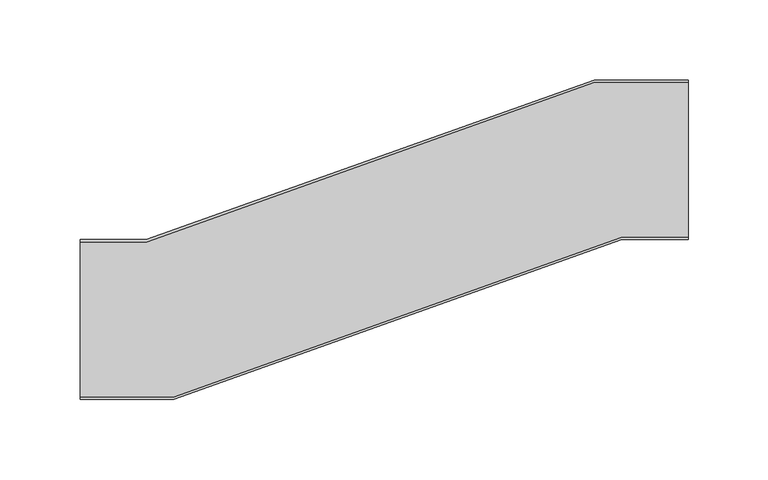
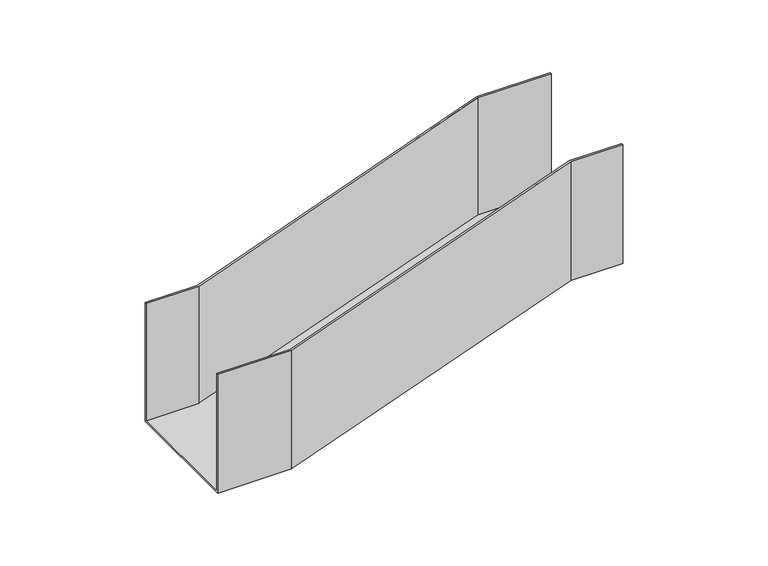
"""IFC4 building model written with IfcOpenShell, lengths in millimetres: cable carrier fitting geometry, BAKS_Bypass_horizontal_left_OPZL : OPZLPH100."""

import ifcopenshell
import ifcopenshell.guid

model = None  # the IFC model being written
_history = None  # IfcOwnerHistory: only IFC2X3 demands one
_inside = {}  # id of a spatial element -> (the spatial element, [elements in it])
_under = {}  # id of a project, library or spatial element -> (it, [spatial elements below it])
_declared = {}  # id of a project -> (the project, [libraries it declares])
_typed = {}  # id of a type object -> (the type object, [elements of that type])
_made_of = {}  # id of a material, layer set ... -> (it, [elements and type objects made of it])


def new_model(schema):
    """Start an empty IFC model of exactly this schema.

    Asked for "IFC4X3", IfcOpenShell would pick the latest addendum, in which some entities
    have other attributes; the version numbers below select the first issue.
    IFC2X3 requires an IfcOwnerHistory on every rooted entity: one is made here for all.
    """
    global model, _history
    if schema == "IFC4X3":
        model = ifcopenshell.file(schema_version=(4, 3, 0, 0))
    else:
        model = ifcopenshell.file(schema=schema)
    _inside.clear()
    _under.clear()
    _declared.clear()
    _typed.clear()
    _made_of.clear()
    _history = None
    if model.schema == "IFC2X3":
        org = make("IfcOrganization", Name="unknown")
        user = make(
            "IfcPersonAndOrganization",
            ThePerson=make("IfcPerson", FamilyName="unknown"),
            TheOrganization=org,
        )
        app = make(
            "IfcApplication",
            ApplicationDeveloper=org,
            Version="unknown",
            ApplicationFullName="unknown",
            ApplicationIdentifier="unknown",
        )
        _history = make(
            "IfcOwnerHistory",
            OwningUser=user,
            OwningApplication=app,
            ChangeAction="ADDED",
            CreationDate=0,
        )
    return model


def make(cls, **values):
    """One entity of the class cls with the attributes given. An attribute that is None is left unset."""
    return model.create_entity(
        cls, **{name: value for name, value in values.items() if value is not None}
    )


def rooted(cls, **values):
    """An entity with a GlobalId (a new one), such as an element, a storey or a relation."""
    return make(cls, GlobalId=ifcopenshell.guid.new(), OwnerHistory=_history, **values)


def si_unit(unit_type, name, prefix=None):
    """IfcSIUnit, for example si_unit("LENGTHUNIT", "METRE", prefix="MILLI")."""
    return make("IfcSIUnit", UnitType=unit_type, Prefix=prefix, Name=name)


def assignment(units):
    """IfcUnitAssignment: the units of a project."""
    return None if units is None else make("IfcUnitAssignment", Units=units)


def point(xyz):
    """IfcCartesianPoint."""
    return None if xyz is None else make("IfcCartesianPoint", Coordinates=xyz)


def direction(xyz):
    """IfcDirection."""
    return None if xyz is None else make("IfcDirection", DirectionRatios=xyz)


def frame(location, z_axis=None, x_axis=None):
    """IfcAxis2Placement3D, a coordinate frame: its origin and axes. An axis left out is left unset."""
    return make(
        "IfcAxis2Placement3D",
        Location=point(location),
        Axis=direction(z_axis),
        RefDirection=direction(x_axis),
    )


def origin():
    """The frame at (0, 0, 0) with its axes left unset."""
    return frame((0.0, 0.0, 0.0))


def place(relative_to, where):
    """IfcLocalPlacement: puts the frame where relative to a parent placement (None: the world)."""
    return make(
        "IfcLocalPlacement", PlacementRelTo=relative_to, RelativePlacement=where
    )


def context(
    kind, dimensions, precision=None, world=None, true_north=None, identifier=None
):
    """IfcGeometricRepresentationContext, for example the 3D "Model" context."""
    return make(
        "IfcGeometricRepresentationContext",
        ContextIdentifier=identifier,
        ContextType=kind,
        CoordinateSpaceDimension=dimensions,
        Precision=precision,
        WorldCoordinateSystem=world,
        TrueNorth=true_north,
    )


def project(units=None, contexts=None):
    """IfcProject with its units and contexts."""
    return rooted(
        "IfcProject",
        Name="project",
        RepresentationContexts=contexts,
        UnitsInContext=assignment(units),
    )


def spatial(cls, under=None, at=None, **own):
    """A site, building, storey or space (cls), placed at a placement, below another one or the project."""
    s = rooted(cls, ObjectPlacement=at, **own)
    if under is not None:
        _under.setdefault(under.id(), (under, []))[1].append(s)
    return s


def faces_of(points, faces, orient=None, outer=None):
    """IfcFace entities. A face is a list of loops; a loop is a list of indices into points, from 0.

    orient and outer hold one flag for each loop. By default every Orientation is true, the
    first loop of a face is its IfcFaceOuterBound and the others are IfcFaceBound.
    """
    made = []
    for i, loops in enumerate(faces):
        bounds = []
        for j, loop in enumerate(loops):
            is_outer = j == 0 if outer is None else outer[i][j]
            bounds.append(
                make(
                    "IfcFaceOuterBound" if is_outer else "IfcFaceBound",
                    Bound=make("IfcPolyLoop", Polygon=[points[k] for k in loop]),
                    Orientation=True if orient is None else orient[i][j],
                )
            )
        made.append(make("IfcFace", Bounds=bounds))
    return made


def faceted_brep(points, faces, orient=None, outer=None, voids=None):
    """IfcFacetedBrep: a solid bounded by flat faces; with voids (closed shells), ...WithVoids."""
    shared = [point(p) for p in points]
    hull = make("IfcClosedShell", CfsFaces=faces_of(shared, faces, orient, outer))
    if voids is None:
        return make("IfcFacetedBrep", Outer=hull)
    return make(
        "IfcFacetedBrepWithVoids",
        Outer=hull,
        Voids=[
            make(cls, CfsFaces=faces_of(shared, fs, o, b)) for cls, fs, o, b in voids
        ],
    )


def shape(context_of_items, identifier, shape_type, items):
    """IfcShapeRepresentation: the items that make up one representation, for example the "Body"."""
    return make(
        "IfcShapeRepresentation",
        ContextOfItems=context_of_items,
        RepresentationIdentifier=identifier,
        RepresentationType=shape_type,
        Items=items,
    )


def source(mapping_origin, context_of_items, identifier, shape_type, items):
    """IfcRepresentationMap: a shape defined once, which mapped items show again and again."""
    return make(
        "IfcRepresentationMap",
        MappingOrigin=mapping_origin,
        MappedRepresentation=shape(context_of_items, identifier, shape_type, items),
    )


def transform(
    local_origin,
    x_axis=None,
    y_axis=None,
    z_axis=None,
    scale=None,
    scale2=None,
    scale3=None,
    uniform=True,
):
    """IfcCartesianTransformationOperator3D, or its non-uniform kind. x_axis, y_axis, z_axis: its Axis1, 2, 3."""
    if uniform:
        return make(
            "IfcCartesianTransformationOperator3D",
            Axis1=direction(x_axis),
            Axis2=direction(y_axis),
            LocalOrigin=point(local_origin),
            Scale=scale,
            Axis3=direction(z_axis),
        )
    return make(
        "IfcCartesianTransformationOperator3DnonUniform",
        Axis1=direction(x_axis),
        Axis2=direction(y_axis),
        LocalOrigin=point(local_origin),
        Scale=scale,
        Axis3=direction(z_axis),
        Scale2=scale2,
        Scale3=scale3,
    )


def mapped(mapping_source, mapping_target):
    """IfcMappedItem: shows the shape of a source again, moved by a transform."""
    return make(
        "IfcMappedItem", MappingSource=mapping_source, MappingTarget=mapping_target
    )


def made_of(thing, what):
    """Note that an element or type object is made of a material, layer set ...; save() writes the relation."""
    if what is not None:
        _made_of.setdefault(what.id(), (what, []))[1].append(thing)
    return thing


def element(
    cls,
    number,
    at=None,
    inside=None,
    cuts=None,
    type_object=None,
    material=None,
    context=None,
    identifier="Body",
    shape_type=None,
    held_by="IfcProductDefinitionShape",
    body=None,
    shapes=None,
    **own,
):
    """One element of the class cls, such as IfcWall. Its Tag is "e" and its number.

    at: its placement. inside: the storey or other place that contains it. cuts: it is an
    opening in that element (IfcRelVoidsElement). A single representation is given by context,
    identifier, shape_type and body (its items); several are given by shapes. held_by: the class
    of the entity that holds the representations. save() writes the other relations.
    """
    e = rooted(cls, Tag="e%d" % number, ObjectPlacement=at, **own)
    if body is not None:
        shapes = [shape(context, identifier, shape_type, body)]
    if shapes is not None:
        e.Representation = make(held_by, Representations=shapes)
    if inside is not None:
        _inside.setdefault(inside.id(), (inside, []))[1].append(e)
    if cuts is not None:
        rooted(
            "IfcRelVoidsElement", RelatingBuildingElement=cuts, RelatedOpeningElement=e
        )
    if type_object is not None:
        _typed.setdefault(type_object.id(), (type_object, []))[1].append(e)
    return made_of(e, material)


def aggregate(whole, parts):
    """IfcRelAggregates: a whole, such as a stair, and the parts it consists of."""
    return rooted("IfcRelAggregates", RelatingObject=whole, RelatedObjects=parts)


def save(model, path):
    """Write the relations noted so far, then the file.

    IfcRelAggregates (storeys below a building ...), IfcRelContainedInSpatialStructure (elements
    in a storey), IfcRelDefinesByType, IfcRelAssociatesMaterial and IfcRelDeclares: one each for
    every whole, place, type object, material and project.
    """
    for whole, parts in _under.values():
        aggregate(whole, parts)
    for where, things in _inside.values():
        rooted(
            "IfcRelContainedInSpatialStructure",
            RelatedElements=things,
            RelatingStructure=where,
        )
    for kind, things in _typed.values():
        rooted("IfcRelDefinesByType", RelatedObjects=things, RelatingType=kind)
    for what, things in _made_of.values():
        rooted("IfcRelAssociatesMaterial", RelatedObjects=things, RelatingMaterial=what)
    for by, libraries in _declared.values():
        rooted("IfcRelDeclares", RelatingContext=by, RelatedDefinitions=libraries)
    model.write(path)


def cable_carrier_fitting_1d79b922(model_context):
    return source(origin(), model_context, "Body", "Brep", [
        faceted_brep([(-190.0, -1.5, 1.5), (-190.0, -1.5, 100.0), (-190.0, 0.0, 100.0), (-190.0, 0.0, 0.0), (-190.0, -100.0, 0.0), (-190.0, -100.0, 100.0), (-190.0, -98.5, 100.0), (-190.0, -98.5, 1.5), (-148.4008668, -1.5, 1.5), (-148.4008668, -1.5, 100.0), (131.5991332, 98.5, 100.0), (190.0, 98.5, 100.0), (190.0, 100.0, 100.0), (131.3393125, 100.0, 100.0), (-148.6606875, 0.0, 100.0), (-148.6606875, 0.0, 0.0), (131.3393125, 100.0, 0.0), (190.0, 100.0, 0.0), (190.0, 0.0, 0.0), (148.6606875, 0.0, 0.0), (-131.3393125, -100.0, 0.0), (-131.3393125, -100.0, 100.0), (148.6606875, 0.0, 100.0), (190.0, 0.0, 100.0), (190.0, 1.5, 100.0), (148.4008668, 1.5, 100.0), (-131.5991332, -98.5, 100.0), (-131.5991332, -98.5, 1.5), (148.4008668, 1.5, 1.5), (190.0, 1.5, 1.5), (190.0, 98.5, 1.5), (131.5991332, 98.5, 1.5)], [[[0, 1, 2, 3, 4, 5, 6, 7]], [[1, 0, 8, 9]], [[2, 1, 9, 10, 11, 12, 13, 14]], [[3, 2, 14, 15]], [[4, 3, 15, 16, 17, 18, 19, 20]], [[5, 4, 20, 21]], [[6, 5, 21, 22, 23, 24, 25, 26]], [[7, 6, 26, 27]], [[0, 7, 27, 28, 29, 30, 31, 8]], [[9, 8, 31, 10]], [[15, 14, 13, 16]], [[21, 20, 19, 22]], [[27, 26, 25, 28]], [[30, 29, 24, 23, 18, 17, 12, 11]], [[10, 31, 30, 11]], [[16, 13, 12, 17]], [[22, 19, 18, 23]], [[28, 25, 24, 29]]]),
    ])


if __name__ == "__main__":
    model = new_model("IFC4")
    model_context = context("Model", 3, world=origin())
    ifc_project = project(units=[si_unit("LENGTHUNIT", "METRE", prefix="MILLI")], contexts=[model_context])
    site = spatial("IfcSite", under=ifc_project)
    building = spatial("IfcBuilding", under=site)
    placement = place(None, origin())
    cable_carrier_fitting_shape = cable_carrier_fitting_1d79b922(model_context)
    element("IfcCableCarrierFitting", 1, ObjectType="BAKS_Bypass_horizontal_left_OPZL : OPZLPH100", at=placement, inside=building, context=model_context, shape_type="MappedRepresentation", body=[
        mapped(cable_carrier_fitting_shape, transform((0.0, 0.0, 0.0), x_axis=(1.0, 0.0, 0.0), y_axis=(0.0, 1.0, 0.0), z_axis=(0.0, 0.0, 1.0))),
    ])
    save(model, "model.ifc")
